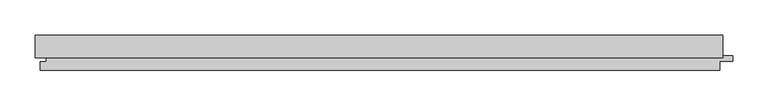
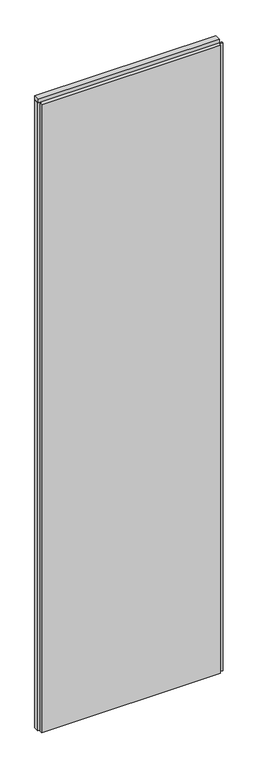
"""IFC4 building model written with IfcOpenShell, lengths in millimetres: plate geometry, Trimo_Qbiss Screen_Normal Panel-VERTICAL : HR - FB-F."""

from ifc_helpers import new_model, si_unit, frame, origin, place, context, project, spatial, polyline, outline, extrude, source, transform, mapped, element, save


def plate_acb70057(model_context):
    return source(origin(), model_context, "Body", "SweptSolid", [
        extrude(outline(polyline([(-488.5, 93.9), (-488.5, 126.0), (488.5, 126.0), (488.5, 93.9), (-488.5, 93.9)])), frame((0.0, 0.0, 3590.5), z_axis=(0.0, 0.0, 1.0), x_axis=(1.0, 0.0, 0.0)), (0.0, 0.0, 1.0), 19.0),
        extrude(outline(polyline([(484.5, 97.0), (503.0, 97.0), (503.0, 89.0), (484.5, 89.0), (484.5, 76.0), (-481.5, 76.0), (-481.5, 88.0), (-473.0, 88.0), (-473.0, 98.0), (-488.5, 98.0), (-488.5, 126.0), (484.5, 126.0), (484.5, 97.0)])), frame((0.0, 0.0, 12.5), z_axis=(0.0, 0.0, 1.0), x_axis=(1.0, 0.0, 0.0)), (0.0, 0.0, 1.0), 3575.0),
    ])


if __name__ == "__main__":
    model = new_model("IFC4")
    model_context = context("Model", 3, world=origin())
    ifc_project = project(units=[si_unit("LENGTHUNIT", "METRE", prefix="MILLI")], contexts=[model_context])
    site = spatial("IfcSite", under=ifc_project)
    building = spatial("IfcBuilding", under=site)
    placement = place(None, origin())
    plate_shape = plate_acb70057(model_context)
    element("IfcPlate", 1, ObjectType="Trimo_Qbiss Screen_Normal Panel-VERTICAL : HR - FB-F", at=placement, inside=building, context=model_context, shape_type="MappedRepresentation", body=[
        mapped(plate_shape, transform((0.0, 0.0, 0.0), x_axis=(1.0, 0.0, 0.0), y_axis=(0.0, 1.0, 0.0), z_axis=(0.0, 0.0, 1.0))),
    ])
    save(model, "model.ifc")
